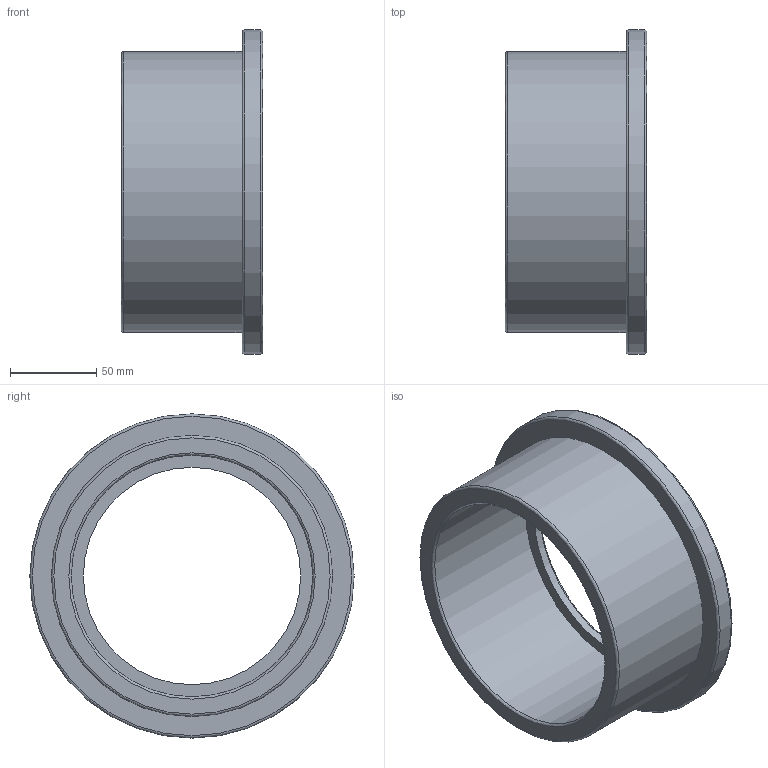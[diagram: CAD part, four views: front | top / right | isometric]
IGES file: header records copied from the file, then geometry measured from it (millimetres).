
Global section: file name: 055100140.ipt; native system: Autodesk Inventor 2015; preprocessor: unknown; author: KIM; date: 20180927.115434; units: millimetre
Bounding box: 82 x 188 x 188 mm (x, y, z)
Volume: 548010.5 mm3; surface area: 107794.4 mm2
Topology: 1 solids, 1 shells, 13 faces, 36 edges, 27 vertices
Faces by surface type: revolution 7, plane 4, cylinder 2
Full cylindrical faces by diameter (mm): 163 x1, 188 x1
